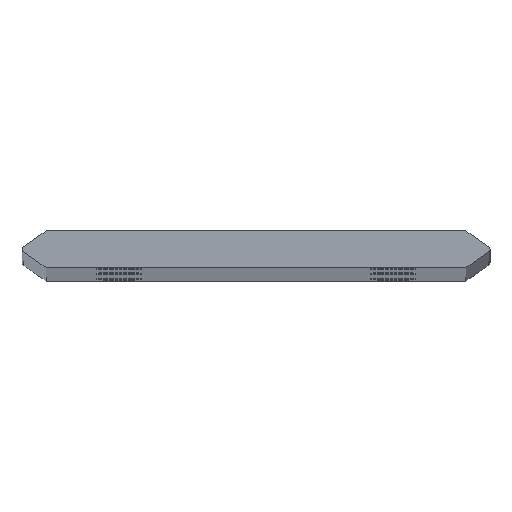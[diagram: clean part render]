
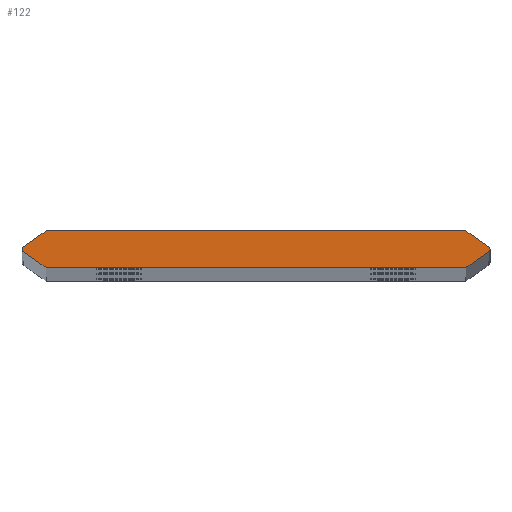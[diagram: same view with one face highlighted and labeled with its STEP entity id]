
A CAD part, top view. The second image highlights one B-rep face of the part: STEP entity #122.
In plain terms, the highlighted planar face has unit normal (0, 0, 1).
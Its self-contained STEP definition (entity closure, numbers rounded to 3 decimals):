
#122=ADVANCED_FACE('',(#226),#227,.T.);
#226=FACE_OUTER_BOUND('',#382,.T.);
#227=PLANE('',#383);
#382=EDGE_LOOP('',(#773,#774,#775,#776,#777,#778,#779,#780,#781,#782));
#383=AXIS2_PLACEMENT_3D('',#783,#784,#785);
#773=ORIENTED_EDGE('',*,*,#941,.T.);
#774=ORIENTED_EDGE('',*,*,#1078,.T.);
#775=ORIENTED_EDGE('',*,*,#1079,.F.);
#776=ORIENTED_EDGE('',*,*,#1080,.F.);
#777=ORIENTED_EDGE('',*,*,#1081,.F.);
#778=ORIENTED_EDGE('',*,*,#937,.T.);
#779=ORIENTED_EDGE('',*,*,#1082,.T.);
#780=ORIENTED_EDGE('',*,*,#1083,.F.);
#781=ORIENTED_EDGE('',*,*,#1084,.F.);
#782=ORIENTED_EDGE('',*,*,#1085,.F.);
#783=CARTESIAN_POINT('',(0.0,0.,1976.0));
#784=DIRECTION('',(0.0,0.0,1.0));
#785=DIRECTION('',(1.0,0.0,0.0));
#937=EDGE_CURVE('',#1101,#1098,#1102,.T.);
#941=EDGE_CURVE('',#1109,#1106,#1110,.T.);
#1078=EDGE_CURVE('',#1106,#1336,#1338,.T.);
#1079=EDGE_CURVE('',#1339,#1336,#1340,.T.);
#1080=EDGE_CURVE('',#1341,#1339,#1342,.T.);
#1081=EDGE_CURVE('',#1101,#1341,#1343,.T.);
#1082=EDGE_CURVE('',#1098,#1344,#1345,.T.);
#1083=EDGE_CURVE('',#1346,#1344,#1347,.T.);
#1084=EDGE_CURVE('',#1348,#1346,#1349,.T.);
#1085=EDGE_CURVE('',#1109,#1348,#1350,.T.);
#1098=VERTEX_POINT('',#1368);
#1101=VERTEX_POINT('',#1372);
#1102=CIRCLE('',#1373,0.76);
#1106=VERTEX_POINT('',#1378);
#1109=VERTEX_POINT('',#1382);
#1110=CIRCLE('',#1383,0.76);
#1336=VERTEX_POINT('',#1654);
#1338=CIRCLE('',#1657,0.76);
#1339=VERTEX_POINT('',#1658);
#1340=LINE('',#1659,#1660);
#1341=VERTEX_POINT('',#1661);
#1342=LINE('',#1662,#1663);
#1343=LINE('',#1664,#1665);
#1344=VERTEX_POINT('',#1666);
#1345=CIRCLE('',#1667,0.76);
#1346=VERTEX_POINT('',#1668);
#1347=LINE('',#1669,#1670);
#1348=VERTEX_POINT('',#1671);
#1349=LINE('',#1672,#1673);
#1350=LINE('',#1674,#1675);
#1368=CARTESIAN_POINT('',(59.84,0.,1976.0));
#1372=CARTESIAN_POINT('',(59.519,-0.62,1976.0));
#1373=AXIS2_PLACEMENT_3D('',#1705,#1706,#1707);
#1378=CARTESIAN_POINT('',(-59.84,0.,1976.0));
#1382=CARTESIAN_POINT('',(-59.519,0.62,1976.0));
#1383=AXIS2_PLACEMENT_3D('',#1713,#1714,#1715);
#1654=CARTESIAN_POINT('',(-59.519,-0.62,1976.0));
#1657=AXIS2_PLACEMENT_3D('',#2032,#2033,#2034);
#1658=CARTESIAN_POINT('',(-53.671,-4.715,1976.0));
#1659=CARTESIAN_POINT('',(-60.405,0.,1976.0));
#1660=VECTOR('',#2035,1.0);
#1661=CARTESIAN_POINT('',(53.671,-4.715,1976.0));
#1662=CARTESIAN_POINT('',(53.671,-4.715,1976.0));
#1663=VECTOR('',#2036,1.0);
#1664=CARTESIAN_POINT('',(60.405,0.0,1976.0));
#1665=VECTOR('',#2037,1.0);
#1666=CARTESIAN_POINT('',(59.519,0.62,1976.0));
#1667=AXIS2_PLACEMENT_3D('',#2038,#2039,#2040);
#1668=CARTESIAN_POINT('',(53.671,4.715,1976.0));
#1669=CARTESIAN_POINT('',(60.405,0.0,1976.0));
#1670=VECTOR('',#2041,1.0);
#1671=CARTESIAN_POINT('',(-53.671,4.715,1976.0));
#1672=CARTESIAN_POINT('',(-53.671,4.715,1976.0));
#1673=VECTOR('',#2042,1.0);
#1674=CARTESIAN_POINT('',(-60.405,0.,1976.0));
#1675=VECTOR('',#2043,1.0);
#1705=CARTESIAN_POINT('',(59.08,0.0,1976.0));
#1706=DIRECTION('',(0.0,0.0,1.0));
#1707=DIRECTION('',(1.0,0.0,0.0));
#1713=CARTESIAN_POINT('',(-59.08,0.,1976.0));
#1714=DIRECTION('',(0.0,0.0,1.0));
#1715=DIRECTION('',(-1.0,0.,0.0));
#2032=CARTESIAN_POINT('',(-59.08,0.,1976.0));
#2033=DIRECTION('',(0.0,0.0,1.0));
#2034=DIRECTION('',(-1.0,0.,0.0));
#2035=DIRECTION('',(-0.819,0.574,0.0));
#2036=DIRECTION('',(-1.0,0.0,0.0));
#2037=DIRECTION('',(-0.819,-0.574,0.0));
#2038=CARTESIAN_POINT('',(59.08,0.0,1976.0));
#2039=DIRECTION('',(0.0,0.0,1.0));
#2040=DIRECTION('',(1.0,0.0,0.0));
#2041=DIRECTION('',(0.819,-0.574,0.0));
#2042=DIRECTION('',(1.0,0.,0.0));
#2043=DIRECTION('',(0.819,0.574,0.0));
